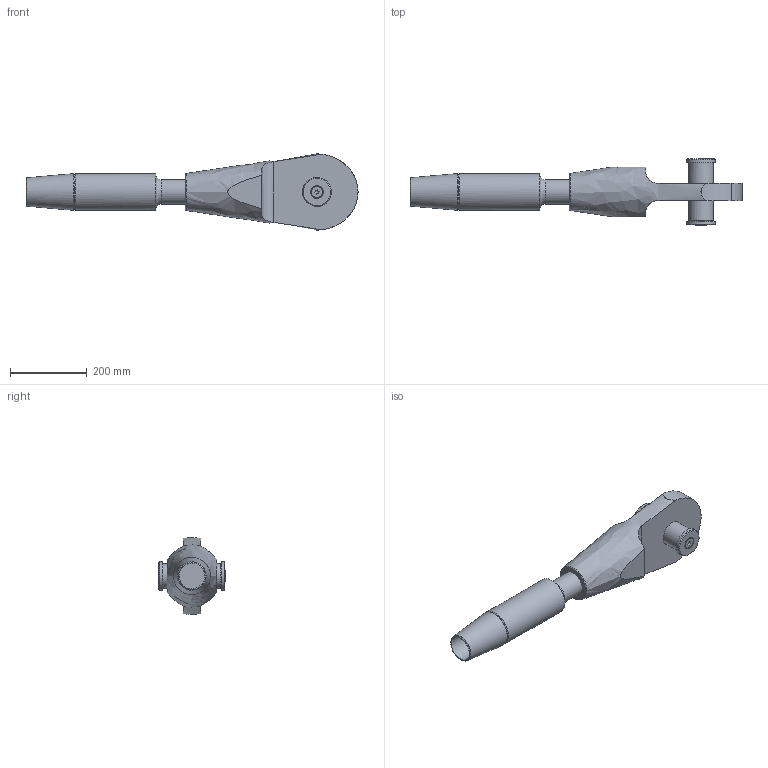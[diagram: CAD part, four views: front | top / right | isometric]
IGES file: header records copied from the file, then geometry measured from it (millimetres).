
Global section: file name: 520-064-OES-ADA; native system: Autodesk Inventor 2020; preprocessor: unknown; author: Administrator; date: 20201007.154127; units: millimetre
Bounding box: 865.49 x 172.3 x 198.52 mm (x, y, z)
Volume: 7403431 mm3; surface area: 444298.1 mm2
Topology: 6 solids, 6 shells, 57 faces, 136 edges, 94 vertices
Faces by surface type: bspline 57
